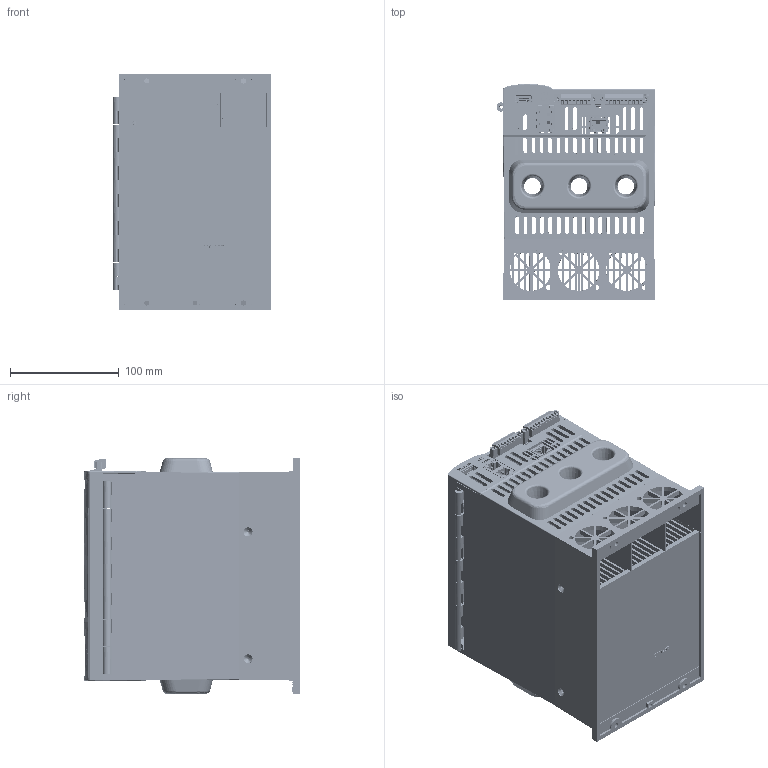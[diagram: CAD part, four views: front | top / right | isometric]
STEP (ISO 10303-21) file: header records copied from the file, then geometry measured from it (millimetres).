
FILE_DESCRIPTION(/* description */ (''),/* implementation_level */ '2;1');
FILE_NAME(/* name */ 'C:\3D_drawings\working\fusion micro large frame\cad block\160a 3Ø.stp',/* time_stamp */ '2016-08-04T16:26:02-05:00',/* author */ ('PaulD'),/* organization */ (''),/* preprocessor_version */ 'ST-DEVELOPER v16.1',/* originating_system */ 'Autodesk Inventor 2016',/* authorisation */ '');
FILE_SCHEMA (('AUTOMOTIVE_DESIGN { 1 0 10303 214 3 1 1 }'));
Products named in the file (47): 3001356; 3001353a; 3001355; 3001352a with cut out; Extruded_5; 564716688; R53; R51; SOLID_1; FCI_10_PIN_HEADER_20020111-c10; FCI_10_PIN_CONNECTOR_20020000-c10; FCI_10_PIN_HEADER_20020111-c10_1; P1; SOLID_4; FCI_8_PIN_HEADER_20020111-c08; FCI_8_PIN_CONNECTOR_20020000-c08; FCI_8_PIN_HEADER_20020111-c08_1; P2; FCI_10118075; P3; Extruded_54; 564720016; U20; Board; plastic_house; plastic_base; short_pins; long_pins; wiper_pins; xport_04_base_sub_assembly; led1; front_shield; back_cover; xport_pro_controller; xport_04_phy; Xport_04_housing; P2_1; 1001401a depopulated; 3001373; COMPOUND_1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
Assembly tree (61 placements, depth 7):
  160a 3Ø shelled
    3001356
    3001353a
    3001355
    3001352a with cut out
    1001392d
      R53
        564716688
          Extruded_5
      R51
        564716688
          Extruded_5
      P5
        USB_TYPE_B_MICRO_FCI_10118194-000LF
          COMPOUND_1
          SOLID_1
      P1
        FCI_10_PIN_HEADER_20020111-c10_1
          FCI_10_PIN_HEADER_20020111-c10
          FCI_10_PIN_CONNECTOR_20020000-c10
      P4
        HDMI_TYPE_A_FCI_10029449-001LF
          COMPOUND_4
          SOLID_4
      P2
        FCI_8_PIN_HEADER_20020111-c08_1
          FCI_8_PIN_HEADER_20020111-c08
          FCI_8_PIN_CONNECTOR_20020000-c08
      P3
        FCI_10118075
      U20
        564720016
          Extruded_54
      1001401a depopulated
        Board
        P2_1
          Xport_04_housing
            plastic_house
            xport_04_base_sub_assembly
              plastic_base
              short_pins  x4
              long_pins  x4
              wiper_pins  x8
            led1  x2
            front_shield
            back_cover
            xport_pro_controller
            xport_04_phy
    3001373
Bounding box: 145.88 x 198.08 x 216.1 mm (x, y, z)
Volume: 1499808.2 mm3; surface area: 1022150.1 mm2
Topology: 86 solids, 3199 shells, 11019 faces, 38341 edges, 30889 vertices
Faces by surface type: plane 8378, cylinder 1926, cone 422, bspline 159, torus 128, sphere 6
Full cylindrical faces by diameter (mm): 0.356 x1, 0.532 x1, 0.559 x8, 0.584 x8, 0.594 x1, 0.611 x1, 0.813 x4, 0.9 x8, 1.02 x2, 1.118 x1, 1.6 x2, 1.8 x4, 2.5 x4, 2.6 x4, 2.642 x1, 2.845 x33, 2.95 x18, 3.25 x2, 3.277 x4, 3.9 x4, 3.962 x12, 4.191 x4, 4.928 x1
Entity records: 480211 total; most frequent: CARTESIAN_POINT 151686, DIRECTION 62207, ORIENTED_EDGE 57475, EDGE_CURVE 36942, VERTEX_POINT 30144, LINE 29713, VECTOR 29713, AXIS2_PLACEMENT_3D 16247
